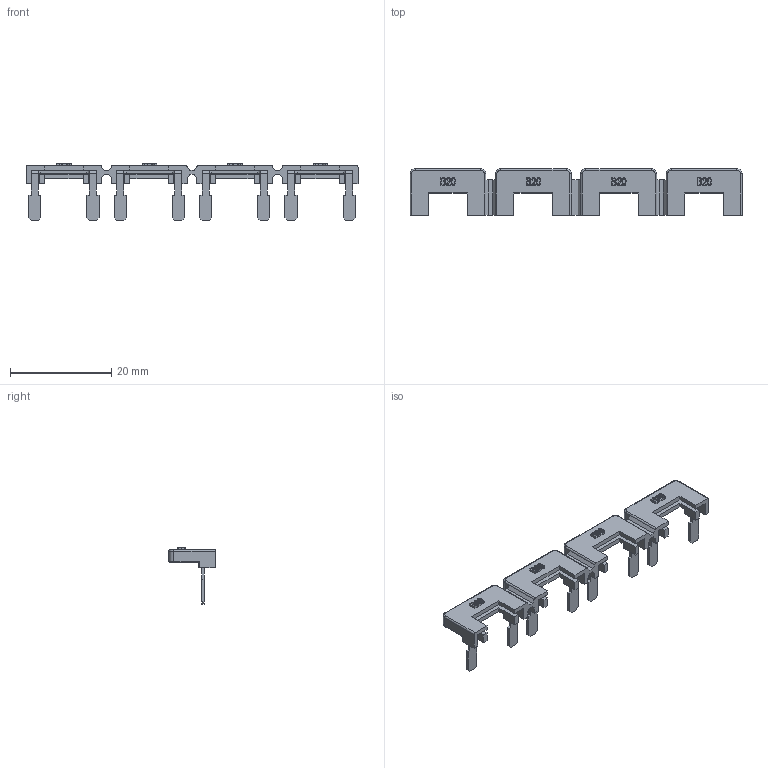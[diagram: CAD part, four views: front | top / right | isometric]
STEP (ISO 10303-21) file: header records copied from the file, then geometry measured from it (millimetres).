
FILE_DESCRIPTION (( 'STEP AP214' ), '1' );
FILE_NAME ('B20.STEP', '2024-04-23T05:08:46', ( '' ), ( '' ), 'SwSTEP 2.0', 'SolidWorks 2022', '' );
FILE_SCHEMA (( 'AUTOMOTIVE_DESIGN' ));
Length unit declared in the file: millimetre
Products named in the file (1): B20
Bounding box: 65.7 x 9.2 x 11.25 mm (x, y, z)
Volume: 1089.9 mm3; surface area: 2397.2 mm2
Topology: 1 solids, 9 shells, 584 faces, 1528 edges, 986 vertices
Faces by surface type: plane 380, bspline 108, cylinder 80, torus 16
Entity records: 25066 total; most frequent: CARTESIAN_POINT 9695, ORIENTED_EDGE 3056, DIRECTION 2434, EDGE_CURVE 1528, LINE 1128, VECTOR 1128, VERTEX_POINT 986, AXIS2_PLACEMENT_3D 653
